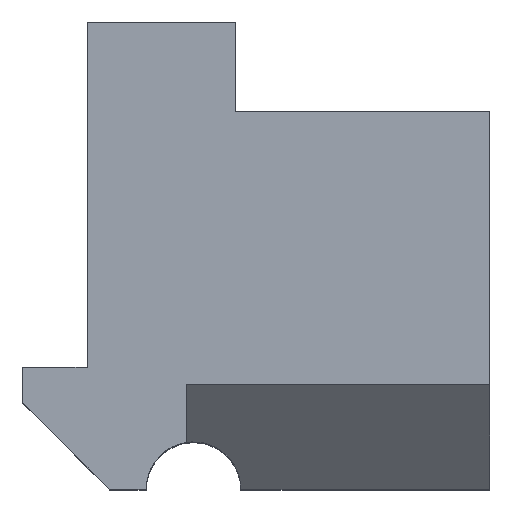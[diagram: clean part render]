
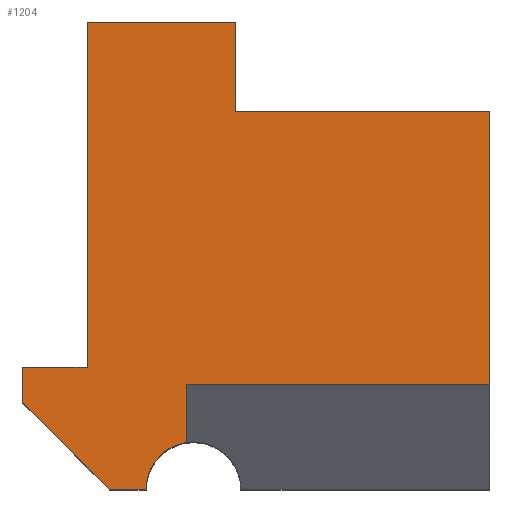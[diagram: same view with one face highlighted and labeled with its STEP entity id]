
A CAD part, top view. The second image highlights one B-rep face of the part: STEP entity #1204.
In plain terms, the highlighted planar face has unit normal (0, 0, 1).
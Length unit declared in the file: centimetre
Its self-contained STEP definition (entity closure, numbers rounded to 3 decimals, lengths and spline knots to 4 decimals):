
#42 = LINE ( 'NONE', #1639, #1363 ) ;
#44 = LINE ( 'NONE', #1344, #974 ) ;
#52 = AXIS2_PLACEMENT_3D ( 'NONE', #582, #1406, #879 ) ;
#99 = EDGE_CURVE ( 'NONE', #1122, #985, #1317, .T. ) ;
#103 = VERTEX_POINT ( 'NONE', #1605 ) ;
#104 = DIRECTION ( 'NONE',  ( 1., 0., 0. ) ) ;
#114 = CARTESIAN_POINT ( 'NONE',  ( 138.5311, 261.2269, 1000. ) ) ;
#125 = CARTESIAN_POINT ( 'NONE',  ( 1000., 1000., 1000. ) ) ;
#148 = LINE ( 'NONE', #1367, #1384 ) ;
#166 = CARTESIAN_POINT ( 'NONE',  ( 455.9569, 1000., 1000. ) ) ;
#175 = VERTEX_POINT ( 'NONE', #1183 ) ;
#205 = CARTESIAN_POINT ( 'NONE',  ( 185.7738, 0., 1000. ) ) ;
#215 = EDGE_CURVE ( 'NONE', #175, #1122, #1345, .T. ) ;
#230 = CARTESIAN_POINT ( 'NONE',  ( 455.9569, 1000., 1000. ) ) ;
#237 = EDGE_CURVE ( 'NONE', #1682, #301, #148, .T. ) ;
#301 = VERTEX_POINT ( 'NONE', #205 ) ;
#325 = FACE_OUTER_BOUND ( 'NONE', #1379, .T. ) ;
#339 = CARTESIAN_POINT ( 'NONE',  ( 455.9569, 809.4765, 1000. ) ) ;
#359 = VERTEX_POINT ( 'NONE', #339 ) ;
#410 = DIRECTION ( 'NONE',  ( 0., 1., 0. ) ) ;
#461 = LINE ( 'NONE', #864, #659 ) ;
#473 = VERTEX_POINT ( 'NONE', #656 ) ;
#476 = VECTOR ( 'NONE', #1388, 100. ) ;
#503 = CARTESIAN_POINT ( 'NONE',  ( 1000., 809.4765, 1000. ) ) ;
#508 = ORIENTED_EDGE ( 'NONE', *, *, #712, .F. ) ;
#509 = DIRECTION ( 'NONE',  ( 1., 0., 0. ) ) ;
#516 = DIRECTION ( 'NONE',  ( 0., 1., 0. ) ) ;
#544 = DIRECTION ( 'NONE',  ( 0., -1., 0. ) ) ;
#559 = DIRECTION ( 'NONE',  ( 0.707, -0.707, 0. ) ) ;
#575 = DIRECTION ( 'NONE',  ( 0., -1., 0. ) ) ;
#582 = CARTESIAN_POINT ( 'NONE',  ( 0., 0., 1000. ) ) ;
#597 = ORIENTED_EDGE ( 'NONE', *, *, #1400, .T. ) ;
#608 = CARTESIAN_POINT ( 'NONE',  ( 1000., 223.7103, 1000. ) ) ;
#636 = VECTOR ( 'NONE', #516, 100. ) ;
#643 = EDGE_CURVE ( 'NONE', #1551, #1139, #1382, .T. ) ;
#656 = CARTESIAN_POINT ( 'NONE',  ( 264.9701, 0., 1000. ) ) ;
#659 = VECTOR ( 'NONE', #1538, 100. ) ;
#673 = CARTESIAN_POINT ( 'NONE',  ( 350.6616, 223.7103, 1000. ) ) ;
#710 = CARTESIAN_POINT ( 'NONE',  ( 0., 261.2269, 1000. ) ) ;
#712 = EDGE_CURVE ( 'NONE', #175, #896, #44, .T. ) ;
#716 = AXIS2_PLACEMENT_3D ( 'NONE', #1440, #1013, #509 ) ;
#750 = CARTESIAN_POINT ( 'NONE',  ( 0., 185.7738, 1000. ) ) ;
#763 = LINE ( 'NONE', #1047, #1640 ) ;
#832 = ORIENTED_EDGE ( 'NONE', *, *, #643, .T. ) ;
#837 = ORIENTED_EDGE ( 'NONE', *, *, #1443, .F. ) ;
#849 = EDGE_CURVE ( 'NONE', #359, #985, #461, .T. ) ;
#864 = CARTESIAN_POINT ( 'NONE',  ( 455.9569, 809.4765, 1000. ) ) ;
#869 = ORIENTED_EDGE ( 'NONE', *, *, #1678, .F. ) ;
#879 = DIRECTION ( 'NONE',  ( 1., 0., 0. ) ) ;
#881 = VECTOR ( 'NONE', #1483, 100. ) ;
#896 = VERTEX_POINT ( 'NONE', #900 ) ;
#899 = LINE ( 'NONE', #1553, #636 ) ;
#900 = CARTESIAN_POINT ( 'NONE',  ( 350.6616, 100.121, 1000. ) ) ;
#916 = VECTOR ( 'NONE', #1143, 100. ) ;
#939 = DIRECTION ( 'NONE',  ( -1., 0., 0. ) ) ;
#974 = VECTOR ( 'NONE', #575, 100. ) ;
#985 = VERTEX_POINT ( 'NONE', #503 ) ;
#996 = CARTESIAN_POINT ( 'NONE',  ( 138.5311, 1000., 1000. ) ) ;
#1013 = DIRECTION ( 'NONE',  ( 0., 0., 1. ) ) ;
#1047 = CARTESIAN_POINT ( 'NONE',  ( 0., 0., 1000. ) ) ;
#1056 = CIRCLE ( 'NONE', #716, 101.3359 ) ;
#1122 = VERTEX_POINT ( 'NONE', #608 ) ;
#1125 = LINE ( 'NONE', #230, #916 ) ;
#1139 = VERTEX_POINT ( 'NONE', #996 ) ;
#1143 = DIRECTION ( 'NONE',  ( 0., -1., 0. ) ) ;
#1147 = ORIENTED_EDGE ( 'NONE', *, *, #1608, .T. ) ;
#1183 = CARTESIAN_POINT ( 'NONE',  ( 350.6616, 223.7103, 1000. ) ) ;
#1204 = ADVANCED_FACE ( 'NONE', ( #325 ), #1380, .T. ) ;
#1227 = EDGE_CURVE ( 'NONE', #103, #1470, #1647, .T. ) ;
#1316 = EDGE_CURVE ( 'NONE', #1470, #1139, #899, .T. ) ;
#1317 = LINE ( 'NONE', #125, #1578 ) ;
#1344 = CARTESIAN_POINT ( 'NONE',  ( 350.6616, 0., 1000. ) ) ;
#1345 = LINE ( 'NONE', #673, #881 ) ;
#1363 = VECTOR ( 'NONE', #544, 100. ) ;
#1367 = CARTESIAN_POINT ( 'NONE',  ( 92.8869, 92.8869, 1000. ) ) ;
#1379 = EDGE_LOOP ( 'NONE', ( #837, #508, #1609, #1524, #1486, #869, #832, #1624, #1663, #1147, #1662, #597 ) ) ;
#1380 = PLANE ( 'NONE',  #52 ) ;
#1382 = LINE ( 'NONE', #1502, #1695 ) ;
#1384 = VECTOR ( 'NONE', #559, 100. ) ;
#1388 = DIRECTION ( 'NONE',  ( 1., 0., 0. ) ) ;
#1400 = EDGE_CURVE ( 'NONE', #301, #473, #763, .T. ) ;
#1406 = DIRECTION ( 'NONE',  ( 0., 0., 1. ) ) ;
#1440 = CARTESIAN_POINT ( 'NONE',  ( 366.306, 0., 1000. ) ) ;
#1443 = EDGE_CURVE ( 'NONE', #896, #473, #1056, .T. ) ;
#1470 = VERTEX_POINT ( 'NONE', #114 ) ;
#1483 = DIRECTION ( 'NONE',  ( 1., 0., 0. ) ) ;
#1486 = ORIENTED_EDGE ( 'NONE', *, *, #849, .F. ) ;
#1502 = CARTESIAN_POINT ( 'NONE',  ( 0., 1000., 1000. ) ) ;
#1524 = ORIENTED_EDGE ( 'NONE', *, *, #99, .T. ) ;
#1538 = DIRECTION ( 'NONE',  ( 1., 0., 0. ) ) ;
#1551 = VERTEX_POINT ( 'NONE', #166 ) ;
#1553 = CARTESIAN_POINT ( 'NONE',  ( 138.5311, 261.2269, 1000. ) ) ;
#1578 = VECTOR ( 'NONE', #410, 100. ) ;
#1605 = CARTESIAN_POINT ( 'NONE',  ( 0., 261.2269, 1000. ) ) ;
#1608 = EDGE_CURVE ( 'NONE', #103, #1682, #42, .T. ) ;
#1609 = ORIENTED_EDGE ( 'NONE', *, *, #215, .T. ) ;
#1624 = ORIENTED_EDGE ( 'NONE', *, *, #1316, .F. ) ;
#1639 = CARTESIAN_POINT ( 'NONE',  ( 0., 1000., 1000. ) ) ;
#1640 = VECTOR ( 'NONE', #104, 100. ) ;
#1647 = LINE ( 'NONE', #710, #476 ) ;
#1662 = ORIENTED_EDGE ( 'NONE', *, *, #237, .T. ) ;
#1663 = ORIENTED_EDGE ( 'NONE', *, *, #1227, .F. ) ;
#1678 = EDGE_CURVE ( 'NONE', #1551, #359, #1125, .T. ) ;
#1682 = VERTEX_POINT ( 'NONE', #750 ) ;
#1695 = VECTOR ( 'NONE', #939, 100. ) ;
